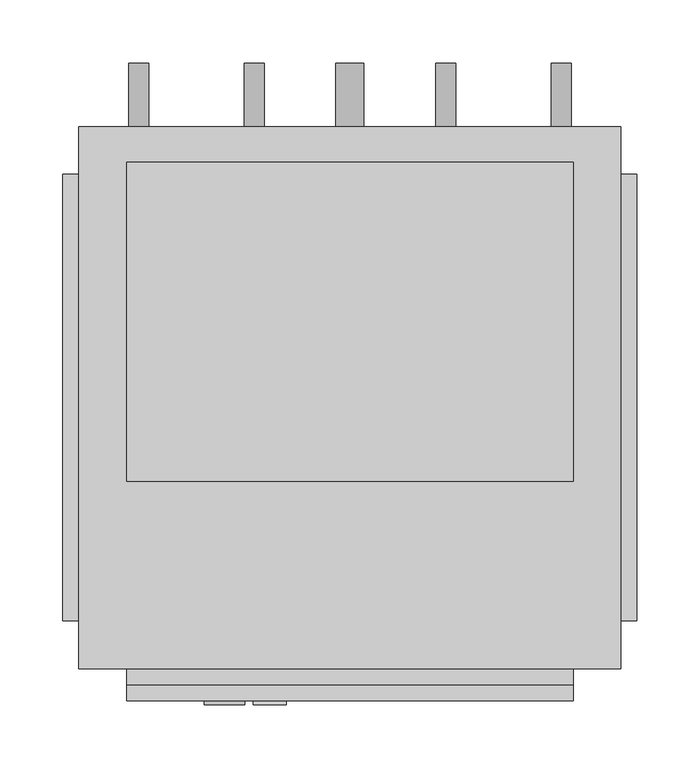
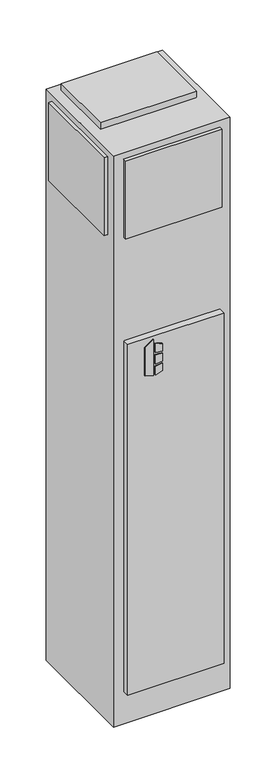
"""IFC4 building model written with IfcOpenShell, lengths in millimetres: proxy geometry, Concealed_Universal_Modular_Fan_Coil_Unit_-_MUY_-_IEC_-_4-Pipe_-_NoRisers_2022 : Size 03 - 277v/60Hz/1Ph - 4/1 Coil."""

from ifc_helpers import new_model, si_unit, point, frame, frame_2d, origin, origin_with_axes, place, context, project, spatial, polyline, circle_curve, trimmed, segment, composite_curve, outline, extrude, source, transform, mapped, element, save


def mechanical_equipment_75d1827f(model_context):
    return source(origin(), model_context, "Body", "SweptSolid", [
        extrude(outline(polyline([(1356.1480703, 252.4868862), (1346.2, 284.6602728), (1488.3709244, 284.6602728), (1465.3489183, 252.4868862), (1356.1480703, 252.4868862)])), frame((0.0, -215.9, 0.0), z_axis=(0.0, 1.0, 0.0), x_axis=(0.0, 0.0, 1.0)), (0.0, 0.0, 1.0), 3.175),
        extrude(outline(polyline([(1435.1473557, 291.4186058), (1431.9449632, 317.5), (1461.1738042, 317.5), (1469.2382193, 291.4186058), (1435.1473557, 291.4186058)])), frame((0.0, -215.9, 0.0), z_axis=(0.0, 1.0, 0.0), x_axis=(0.0, 0.0, 1.0)), (0.0, 0.0, 1.0), 3.175),
        extrude(outline(polyline([(1383.2838288, 317.5), (1379.6183279, 291.4186058), (1346.2, 291.4186058), (1354.8342372, 317.5), (1383.2838288, 317.5)])), frame((0.0, -215.9, 0.0), z_axis=(0.0, 1.0, 0.0), x_axis=(0.0, 0.0, 1.0)), (0.0, 0.0, 1.0), 3.175),
        extrude(outline(polyline([(1422.5989903, 317.5), (1424.8808166, 291.4186058), (1388.9432681, 291.4186058), (1391.6845331, 317.5), (1422.5989903, 317.5)])), frame((0.0, -215.9, 0.0), z_axis=(0.0, 1.0, 0.0), x_axis=(0.0, 0.0, 1.0)), (0.0, 0.0, 1.0), 3.175),
        extrude(outline(composite_curve([segment(trimmed(circle_curve(frame_2d((990.6, 536.575)), 7.9375), [point((990.6, 528.6375))], [point((990.6, 544.5125))], False, "CARTESIAN"), True, "CONTINUOUS"), segment(trimmed(circle_curve(frame_2d((990.6, 536.575)), 7.9375), [point((990.6, 544.5125))], [point((990.6, 528.6375))], False, "CARTESIAN"), True, "CONTINUOUS")], self_intersect=False)), frame((0.0, 244.475, 0.0), z_axis=(0.0, 1.0, 0.0), x_axis=(0.0, 0.0, 1.0)), (0.0, 0.0, 1.0), 50.8),
        extrude(outline(composite_curve([segment(trimmed(circle_curve(frame_2d((990.6, 444.5)), 7.9375), [point((990.6, 436.5625))], [point((990.6, 452.4375))], False, "CARTESIAN"), True, "CONTINUOUS"), segment(trimmed(circle_curve(frame_2d((990.6, 444.5)), 7.9375), [point((990.6, 452.4375))], [point((990.6, 436.5625))], False, "CARTESIAN"), True, "CONTINUOUS")], self_intersect=False)), frame((0.0, 244.475, 0.0), z_axis=(0.0, 1.0, 0.0), x_axis=(0.0, 0.0, 1.0)), (0.0, 0.0, 1.0), 50.8),
        extrude(outline(composite_curve([segment(trimmed(circle_curve(frame_2d((990.6, 292.1)), 7.9375), [point((990.6, 284.1625))], [point((990.6, 300.0375))], False, "CARTESIAN"), True, "CONTINUOUS"), segment(trimmed(circle_curve(frame_2d((990.6, 292.1)), 7.9375), [point((990.6, 300.0375))], [point((990.6, 284.1625))], False, "CARTESIAN"), True, "CONTINUOUS")], self_intersect=False)), frame((0.0, 244.475, 0.0), z_axis=(0.0, 1.0, 0.0), x_axis=(0.0, 0.0, 1.0)), (0.0, 0.0, 1.0), 50.8),
        extrude(outline(composite_curve([segment(trimmed(circle_curve(frame_2d((990.6, 200.025)), 7.9375), [point((990.6, 192.0875))], [point((990.6, 207.9625))], False, "CARTESIAN"), True, "CONTINUOUS"), segment(trimmed(circle_curve(frame_2d((990.6, 200.025)), 7.9375), [point((990.6, 207.9625))], [point((990.6, 192.0875))], False, "CARTESIAN"), True, "CONTINUOUS")], self_intersect=False)), frame((0.0, 244.475, 0.0), z_axis=(0.0, 1.0, 0.0), x_axis=(0.0, 0.0, 1.0)), (0.0, 0.0, 1.0), 50.8),
        extrude(outline(composite_curve([segment(trimmed(circle_curve(frame_2d((76.2, 368.3)), 11.1125), [point((76.2, 357.1875))], [point((76.2, 379.4125))], False, "CARTESIAN"), True, "CONTINUOUS"), segment(trimmed(circle_curve(frame_2d((76.2, 368.3)), 11.1125), [point((76.2, 379.4125))], [point((76.2, 357.1875))], False, "CARTESIAN"), True, "CONTINUOUS")], self_intersect=False)), frame((0.0, 244.475, 0.0), z_axis=(0.0, 1.0, 0.0), x_axis=(0.0, 0.0, 1.0)), (0.0, 0.0, 1.0), 50.8),
        extrude(outline(polyline([(546.1, 215.9), (546.1, -38.1), (190.5, -38.1), (190.5, 215.9), (546.1, 215.9)])), frame((0.0, 0.0, 2235.2), z_axis=(0.0, 0.0, 1.0), x_axis=(1.0, 0.0, 0.0)), (0.0, 0.0, 1.0), 25.4),
        extrude(outline(polyline([(139.7, -149.225), (139.7, 206.375), (152.4, 206.375), (152.4, -149.225), (139.7, -149.225)])), frame((0.0, 0.0, 1905.0), z_axis=(0.0, 0.0, 1.0), x_axis=(1.0, 0.0, 0.0)), (0.0, 0.0, 1.0), 304.8),
        extrude(outline(polyline([(596.9, 206.375), (596.9, -149.225), (584.2, -149.225), (584.2, 206.375), (596.9, 206.375)])), frame((0.0, 0.0, 1905.0), z_axis=(0.0, 0.0, 1.0), x_axis=(1.0, 0.0, 0.0)), (0.0, 0.0, 1.0), 304.8),
        extrude(outline(polyline([(546.1, -200.025), (190.5, -200.025), (190.5, -187.325), (546.1, -187.325), (546.1, -200.025)])), frame((0.0, 0.0, 1905.0), z_axis=(0.0, 0.0, 1.0), x_axis=(1.0, 0.0, 0.0)), (0.0, 0.0, 1.0), 304.8),
        extrude(outline(polyline([(546.1, -212.725), (190.5, -212.725), (190.5, -187.325), (546.1, -187.325), (546.1, -212.725)])), frame((0.0, 0.0, 127.0), z_axis=(0.0, 0.0, 1.0), x_axis=(1.0, 0.0, 0.0)), (0.0, 0.0, 1.0), 1371.6),
        extrude(outline(polyline([(584.2, 244.475), (584.2, -187.325), (152.4, -187.325), (152.4, 244.475), (584.2, 244.475)])), origin_with_axes(), (0.0, 0.0, 1.0), 2235.2),
    ])


if __name__ == "__main__":
    model = new_model("IFC4")
    model_context = context("Model", 3, world=origin())
    ifc_project = project(units=[si_unit("LENGTHUNIT", "METRE", prefix="MILLI")], contexts=[model_context])
    site = spatial("IfcSite", under=ifc_project)
    building = spatial("IfcBuilding", under=site)
    placement = place(None, origin())
    mechanical_equipment_shape = mechanical_equipment_75d1827f(model_context)
    element("IfcBuildingElementProxy", 1, Name="Concealed_Universal_Modular_Fan_Coil_Unit_-_MUY_-_IEC_-_4-Pipe_-_NoRisers_2022 : Size 03 - 277v/60Hz/1Ph - 4/1 Coil", ObjectType="Concealed_Universal_Modular_Fan_Coil_Unit_-_MUY_-_IEC_-_4-Pipe_-_NoRisers_2022 : Size 03 - 277v/60Hz/1Ph - 4/1 Coil", at=placement, inside=building, context=model_context, shape_type="MappedRepresentation", body=[
        mapped(mechanical_equipment_shape, transform((0.0, 0.0, 0.0), x_axis=(1.0, 0.0, 0.0), y_axis=(0.0, 1.0, 0.0), z_axis=(0.0, 0.0, 1.0))),
    ])
    save(model, "model.ifc")
